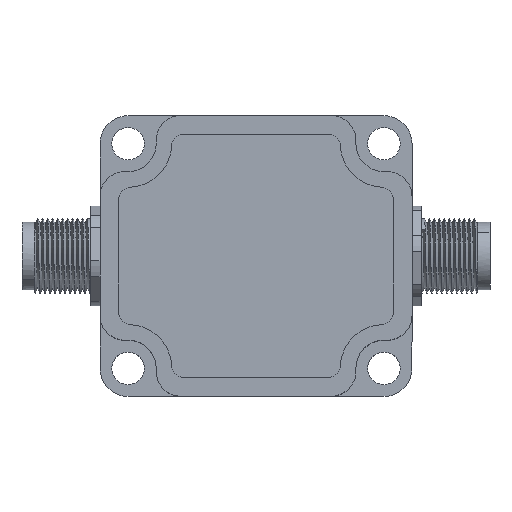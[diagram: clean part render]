
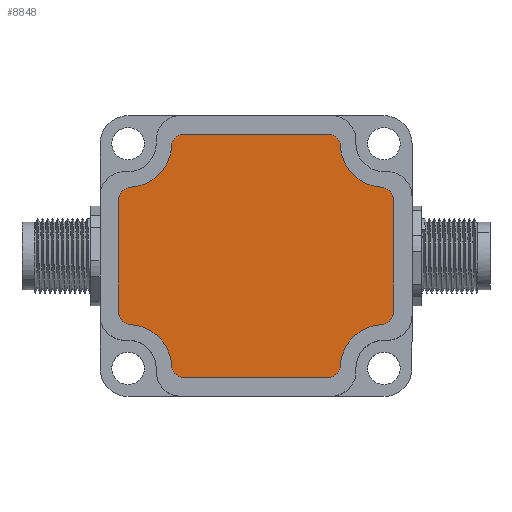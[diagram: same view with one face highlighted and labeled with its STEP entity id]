
A CAD part, top view. The second image highlights one B-rep face of the part: STEP entity #8848.
In plain terms, the highlighted planar face has unit normal (0, 0, 1).
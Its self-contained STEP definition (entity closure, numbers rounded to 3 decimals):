
#81 = ORIENTED_EDGE ( 'NONE', *, *, #13956, .T. ) ;
#154 = LINE ( 'NONE', #8172, #12573 ) ;
#165 = VECTOR ( 'NONE', #5049, 1000. ) ;
#230 = DIRECTION ( 'NONE',  ( -1., 0., 0. ) ) ;
#243 = CARTESIAN_POINT ( 'NONE',  ( -10.484, 18.803, 60.8 ) ) ;
#520 = LINE ( 'NONE', #13017, #11742 ) ;
#571 = DIRECTION ( 'NONE',  ( 0., 0., -1. ) ) ;
#620 = CIRCLE ( 'NONE', #9678, 7. ) ;
#719 = AXIS2_PLACEMENT_3D ( 'NONE', #8886, #10921, #3456 ) ;
#887 = DIRECTION ( 'NONE',  ( 0., 0., 1. ) ) ;
#944 = CARTESIAN_POINT ( 'NONE',  ( -20.97, -9.711, 60.8 ) ) ;
#966 = EDGE_CURVE ( 'NONE', #4027, #4677, #620, .T. ) ;
#980 = CARTESIAN_POINT ( 'NONE',  ( 12.544, -18.197, 60.8 ) ) ;
#1089 = DIRECTION ( 'NONE',  ( 0., 0., 1. ) ) ;
#1091 = AXIS2_PLACEMENT_3D ( 'NONE', #8953, #12191, #2421 ) ;
#1099 = CARTESIAN_POINT ( 'NONE',  ( -20.97, 8.317, 60.8 ) ) ;
#1301 = DIRECTION ( 'NONE',  ( 0., 0., 1. ) ) ;
#1678 = PLANE ( 'NONE',  #9886 ) ;
#1684 = ORIENTED_EDGE ( 'NONE', *, *, #5659, .T. ) ;
#1862 = AXIS2_PLACEMENT_3D ( 'NONE', #11785, #12872, #14040 ) ;
#2090 = CIRCLE ( 'NONE', #1091, 2. ) ;
#2257 = CIRCLE ( 'NONE', #6311, 2. ) ;
#2413 = FACE_OUTER_BOUND ( 'NONE', #9471, .T. ) ;
#2421 = DIRECTION ( 'NONE',  ( 1., 0., 0. ) ) ;
#2558 = DIRECTION ( 'NONE',  ( 1., 0., 0. ) ) ;
#2656 = DIRECTION ( 'NONE',  ( 0., 0., -1. ) ) ;
#2732 = CARTESIAN_POINT ( 'NONE',  ( -10.484, -20.197, 60.8 ) ) ;
#2739 = ORIENTED_EDGE ( 'NONE', *, *, #9734, .T. ) ;
#2835 = EDGE_CURVE ( 'NONE', #13401, #3306, #12638, .T. ) ;
#2950 = VERTEX_POINT ( 'NONE', #2732 ) ;
#2964 = CIRCLE ( 'NONE', #4084, 2. ) ;
#2973 = VERTEX_POINT ( 'NONE', #6071 ) ;
#2975 = AXIS2_PLACEMENT_3D ( 'NONE', #3189, #887, #8666 ) ;
#3002 = DIRECTION ( 'NONE',  ( 1., 0., 0. ) ) ;
#3189 = CARTESIAN_POINT ( 'NONE',  ( -10.484, 16.803, 60.8 ) ) ;
#3265 = EDGE_CURVE ( 'NONE', #4677, #6804, #13494, .T. ) ;
#3306 = VERTEX_POINT ( 'NONE', #5485 ) ;
#3337 = EDGE_CURVE ( 'NONE', #8071, #2950, #2257, .T. ) ;
#3367 = ORIENTED_EDGE ( 'NONE', *, *, #11178, .T. ) ;
#3376 = EDGE_CURVE ( 'NONE', #12596, #3567, #2090, .T. ) ;
#3456 = DIRECTION ( 'NONE',  ( 1., 0., 0. ) ) ;
#3567 = VERTEX_POINT ( 'NONE', #8149 ) ;
#3648 = CIRCLE ( 'NONE', #3790, 2. ) ;
#3730 = LINE ( 'NONE', #243, #4238 ) ;
#3790 = AXIS2_PLACEMENT_3D ( 'NONE', #11550, #6202, #13796 ) ;
#3825 = CIRCLE ( 'NONE', #6449, 7. ) ;
#3870 = ORIENTED_EDGE ( 'NONE', *, *, #3337, .T. ) ;
#3929 = AXIS2_PLACEMENT_3D ( 'NONE', #10584, #11621, #3982 ) ;
#3982 = DIRECTION ( 'NONE',  ( 1., 0., 0. ) ) ;
#4007 = CARTESIAN_POINT ( 'NONE',  ( 23.03, 8.317, 60.8 ) ) ;
#4027 = VERTEX_POINT ( 'NONE', #10922 ) ;
#4084 = AXIS2_PLACEMENT_3D ( 'NONE', #980, #11912, #8616 ) ;
#4225 = ORIENTED_EDGE ( 'NONE', *, *, #6820, .T. ) ;
#4238 = VECTOR ( 'NONE', #11175, 1000. ) ;
#4379 = AXIS2_PLACEMENT_3D ( 'NONE', #10385, #11512, #7162 ) ;
#4677 = VERTEX_POINT ( 'NONE', #5850 ) ;
#4790 = ORIENTED_EDGE ( 'NONE', *, *, #11991, .T. ) ;
#5049 = DIRECTION ( 'NONE',  ( 0., 1., 0. ) ) ;
#5308 = CARTESIAN_POINT ( 'NONE',  ( 21.141, 10.314, 60.8 ) ) ;
#5445 = EDGE_CURVE ( 'NONE', #6804, #11635, #10566, .T. ) ;
#5485 = CARTESIAN_POINT ( 'NONE',  ( -19.081, 10.314, 60.8 ) ) ;
#5604 = CARTESIAN_POINT ( 'NONE',  ( -12.481, 16.914, 60.8 ) ) ;
#5659 = EDGE_CURVE ( 'NONE', #10407, #2973, #10899, .T. ) ;
#5757 = ORIENTED_EDGE ( 'NONE', *, *, #13092, .T. ) ;
#5782 = CARTESIAN_POINT ( 'NONE',  ( 12.544, 18.803, 60.8 ) ) ;
#5850 = CARTESIAN_POINT ( 'NONE',  ( 21.141, -11.708, 60.8 ) ) ;
#6004 = CARTESIAN_POINT ( 'NONE',  ( -19.47, -18.697, 60.8 ) ) ;
#6014 = EDGE_CURVE ( 'NONE', #3306, #9438, #7503, .T. ) ;
#6017 = CARTESIAN_POINT ( 'NONE',  ( 12.544, -18.197, 60.8 ) ) ;
#6071 = CARTESIAN_POINT ( 'NONE',  ( 14.541, 16.914, 60.8 ) ) ;
#6202 = DIRECTION ( 'NONE',  ( 0., 0., 1. ) ) ;
#6311 = AXIS2_PLACEMENT_3D ( 'NONE', #7626, #1301, #230 ) ;
#6449 = AXIS2_PLACEMENT_3D ( 'NONE', #6004, #2656, #2558 ) ;
#6501 = CARTESIAN_POINT ( 'NONE',  ( 12.544, -20.197, 60.8 ) ) ;
#6804 = VERTEX_POINT ( 'NONE', #8927 ) ;
#6820 = EDGE_CURVE ( 'NONE', #8047, #7478, #3730, .T. ) ;
#6948 = CARTESIAN_POINT ( 'NONE',  ( -10.484, 18.803, 60.8 ) ) ;
#7162 = DIRECTION ( 'NONE',  ( 1., 0., 0. ) ) ;
#7478 = VERTEX_POINT ( 'NONE', #6948 ) ;
#7503 = CIRCLE ( 'NONE', #3929, 2. ) ;
#7626 = CARTESIAN_POINT ( 'NONE',  ( -10.484, -18.197, 60.8 ) ) ;
#7662 = DIRECTION ( 'NONE',  ( 1., 0., 0. ) ) ;
#7757 = ORIENTED_EDGE ( 'NONE', *, *, #3376, .T. ) ;
#7990 = ORIENTED_EDGE ( 'NONE', *, *, #9751, .T. ) ;
#8047 = VERTEX_POINT ( 'NONE', #5782 ) ;
#8071 = VERTEX_POINT ( 'NONE', #10153 ) ;
#8149 = CARTESIAN_POINT ( 'NONE',  ( -19.081, -11.708, 60.8 ) ) ;
#8172 = CARTESIAN_POINT ( 'NONE',  ( -20.97, 8.317, 60.8 ) ) ;
#8203 = DIRECTION ( 'NONE',  ( -1., 0., 0. ) ) ;
#8348 = VERTEX_POINT ( 'NONE', #6501 ) ;
#8531 = ORIENTED_EDGE ( 'NONE', *, *, #5445, .T. ) ;
#8580 = DIRECTION ( 'NONE',  ( -1., 0., 0. ) ) ;
#8616 = DIRECTION ( 'NONE',  ( -1., 0., 0. ) ) ;
#8639 = ORIENTED_EDGE ( 'NONE', *, *, #8986, .T. ) ;
#8666 = DIRECTION ( 'NONE',  ( -1., 0., 0. ) ) ;
#8848 = ADVANCED_FACE ( 'NONE', ( #2413 ), #1678, .F. ) ;
#8886 = CARTESIAN_POINT ( 'NONE',  ( 21.53, 17.303, 60.8 ) ) ;
#8927 = CARTESIAN_POINT ( 'NONE',  ( 23.03, -9.711, 60.8 ) ) ;
#8953 = CARTESIAN_POINT ( 'NONE',  ( -18.97, -9.711, 60.8 ) ) ;
#8986 = EDGE_CURVE ( 'NONE', #11635, #10407, #9059, .T. ) ;
#9059 = CIRCLE ( 'NONE', #1862, 2. ) ;
#9438 = VERTEX_POINT ( 'NONE', #1099 ) ;
#9471 = EDGE_LOOP ( 'NONE', ( #2739, #11082, #11645, #8531, #8639, #1684, #5757, #4225, #7990, #9775, #13111, #4790, #7757, #81, #3870, #3367 ) ) ;
#9650 = CARTESIAN_POINT ( 'NONE',  ( 21.53, -18.697, 60.8 ) ) ;
#9678 = AXIS2_PLACEMENT_3D ( 'NONE', #9650, #12717, #3002 ) ;
#9734 = EDGE_CURVE ( 'NONE', #8348, #4027, #2964, .T. ) ;
#9751 = EDGE_CURVE ( 'NONE', #7478, #13401, #11268, .T. ) ;
#9764 = CARTESIAN_POINT ( 'NONE',  ( 21.03, -9.711, 60.8 ) ) ;
#9775 = ORIENTED_EDGE ( 'NONE', *, *, #2835, .T. ) ;
#9886 = AXIS2_PLACEMENT_3D ( 'NONE', #6017, #571, #8203 ) ;
#10153 = CARTESIAN_POINT ( 'NONE',  ( -12.481, -18.308, 60.8 ) ) ;
#10385 = CARTESIAN_POINT ( 'NONE',  ( -19.47, 17.303, 60.8 ) ) ;
#10407 = VERTEX_POINT ( 'NONE', #5308 ) ;
#10566 = LINE ( 'NONE', #4007, #165 ) ;
#10584 = CARTESIAN_POINT ( 'NONE',  ( -18.97, 8.317, 60.8 ) ) ;
#10899 = CIRCLE ( 'NONE', #719, 7. ) ;
#10922 = CARTESIAN_POINT ( 'NONE',  ( 14.541, -18.308, 60.8 ) ) ;
#10921 = DIRECTION ( 'NONE',  ( 0., 0., -1. ) ) ;
#11082 = ORIENTED_EDGE ( 'NONE', *, *, #966, .T. ) ;
#11175 = DIRECTION ( 'NONE',  ( -1., 0., 0. ) ) ;
#11178 = EDGE_CURVE ( 'NONE', #2950, #8348, #520, .T. ) ;
#11268 = CIRCLE ( 'NONE', #2975, 2. ) ;
#11512 = DIRECTION ( 'NONE',  ( 0., 0., -1. ) ) ;
#11550 = CARTESIAN_POINT ( 'NONE',  ( 12.544, 16.803, 60.8 ) ) ;
#11621 = DIRECTION ( 'NONE',  ( 0., 0., 1. ) ) ;
#11635 = VERTEX_POINT ( 'NONE', #11863 ) ;
#11645 = ORIENTED_EDGE ( 'NONE', *, *, #3265, .T. ) ;
#11654 = AXIS2_PLACEMENT_3D ( 'NONE', #9764, #1089, #8580 ) ;
#11742 = VECTOR ( 'NONE', #7662, 1000. ) ;
#11785 = CARTESIAN_POINT ( 'NONE',  ( 21.03, 8.317, 60.8 ) ) ;
#11863 = CARTESIAN_POINT ( 'NONE',  ( 23.03, 8.317, 60.8 ) ) ;
#11912 = DIRECTION ( 'NONE',  ( 0., 0., 1. ) ) ;
#11991 = EDGE_CURVE ( 'NONE', #9438, #12596, #154, .T. ) ;
#12191 = DIRECTION ( 'NONE',  ( 0., 0., 1. ) ) ;
#12467 = DIRECTION ( 'NONE',  ( 0., -1., 0. ) ) ;
#12573 = VECTOR ( 'NONE', #12467, 1000. ) ;
#12596 = VERTEX_POINT ( 'NONE', #944 ) ;
#12638 = CIRCLE ( 'NONE', #4379, 7. ) ;
#12717 = DIRECTION ( 'NONE',  ( 0., 0., -1. ) ) ;
#12872 = DIRECTION ( 'NONE',  ( 0., 0., 1. ) ) ;
#13017 = CARTESIAN_POINT ( 'NONE',  ( -10.484, -20.197, 60.8 ) ) ;
#13092 = EDGE_CURVE ( 'NONE', #2973, #8047, #3648, .T. ) ;
#13111 = ORIENTED_EDGE ( 'NONE', *, *, #6014, .T. ) ;
#13401 = VERTEX_POINT ( 'NONE', #5604 ) ;
#13494 = CIRCLE ( 'NONE', #11654, 2. ) ;
#13796 = DIRECTION ( 'NONE',  ( 1., 0., 0. ) ) ;
#13956 = EDGE_CURVE ( 'NONE', #3567, #8071, #3825, .T. ) ;
#14040 = DIRECTION ( 'NONE',  ( 1., 0., 0. ) ) ;
